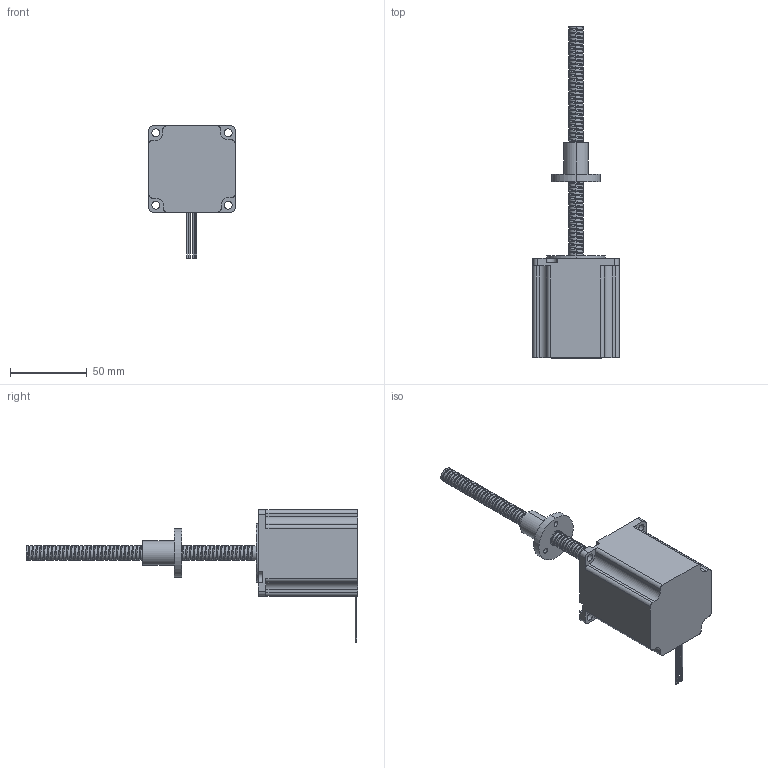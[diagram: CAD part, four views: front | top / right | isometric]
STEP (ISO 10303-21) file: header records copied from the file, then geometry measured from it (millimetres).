
FILE_DESCRIPTION(('FreeCAD Model'),'2;1');
FILE_NAME( 'C:/Users/ck/Documents/NAS02/Ny mappe/Ok/MSL232xEx-4L3N0xxxx.step', '2018-07-27T14:07:05',('Author'),(''), 'Open CASCADE STEP processor 6.8','FreeCAD','Unknown');
FILE_SCHEMA(('AUTOMOTIVE_DESIGN_CC2 { 1 2 10303 214 -1 1 5 4 }'));
Length unit declared in the file: millimetre
Products named in the file (2): ASSEMBLY
Assembly tree (1 placements, depth 2):
  ASSEMBLY
    (unnamed)
Bounding box: 56.2 x 216.5 x 86.2 mm (x, y, z)
Volume: 201853.1 mm3; surface area: 30254.4 mm2
Topology: 1 solids, 1 shells, 194 faces, 555 edges, 370 vertices
Faces by surface type: cylinder 151, plane 40, bspline 3
Entity records: 46577 total; most frequent: CARTESIAN_POINT 37664, ORIENTED_EDGE 1110, PCURVE 1110, DEFINITIONAL_REPRESENTATION 1110, DIRECTION 1065, B_SPLINE_CURVE_WITH_KNOTS 841, EDGE_CURVE 555, SURFACE_CURVE 555
